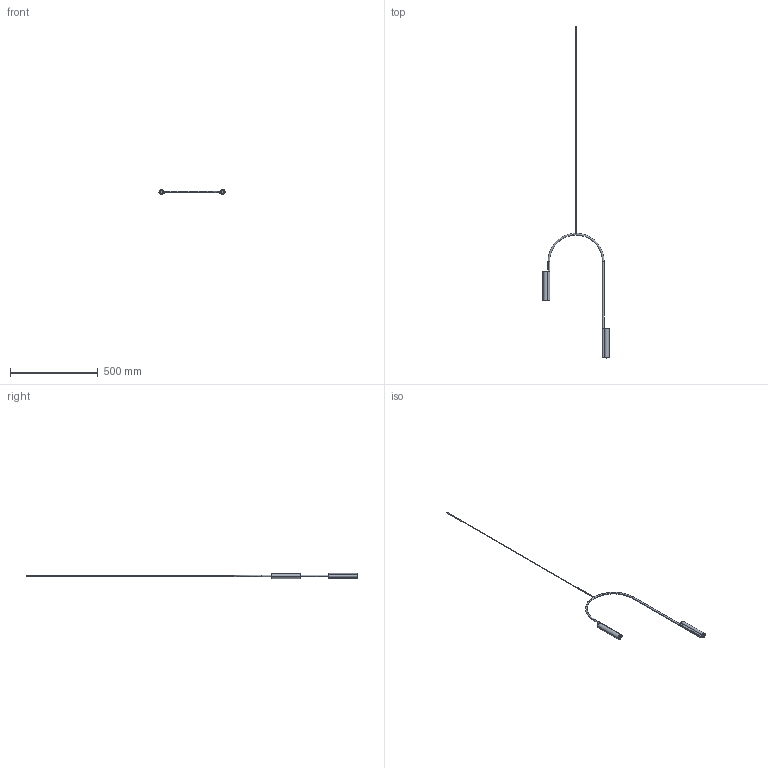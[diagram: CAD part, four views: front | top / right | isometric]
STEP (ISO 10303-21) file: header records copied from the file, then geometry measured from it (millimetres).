
FILE_DESCRIPTION (( 'STEP AP214' ), '1' );
FILE_NAME ('Pop - Pendant B.STEP', '2024-04-08T06:12:23', ( '' ), ( '' ), 'SwSTEP 2.0', 'SolidWorks 2017', '' );
FILE_SCHEMA (( 'AUTOMOTIVE_DESIGN' ));
Length unit declared in the file: millimetre
Products named in the file (1): Pop - Pendant B
Bounding box: 375.98 x 1889.99 x 28.82 mm (x, y, z)
Volume: 245773.9 mm3; surface area: 163293 mm2
Topology: 11 solids, 11 shells, 199 faces, 423 edges, 257 vertices
Faces by surface type: cylinder 71, torus 53, plane 33, cone 24, bspline 18
Entity records: 12004 total; most frequent: CARTESIAN_POINT 5332, DIRECTION 995, ORIENTED_EDGE 846, AXIS2_PLACEMENT_3D 451, EDGE_CURVE 423, CIRCLE 269, VERTEX_POINT 257, EDGE_LOOP 220
